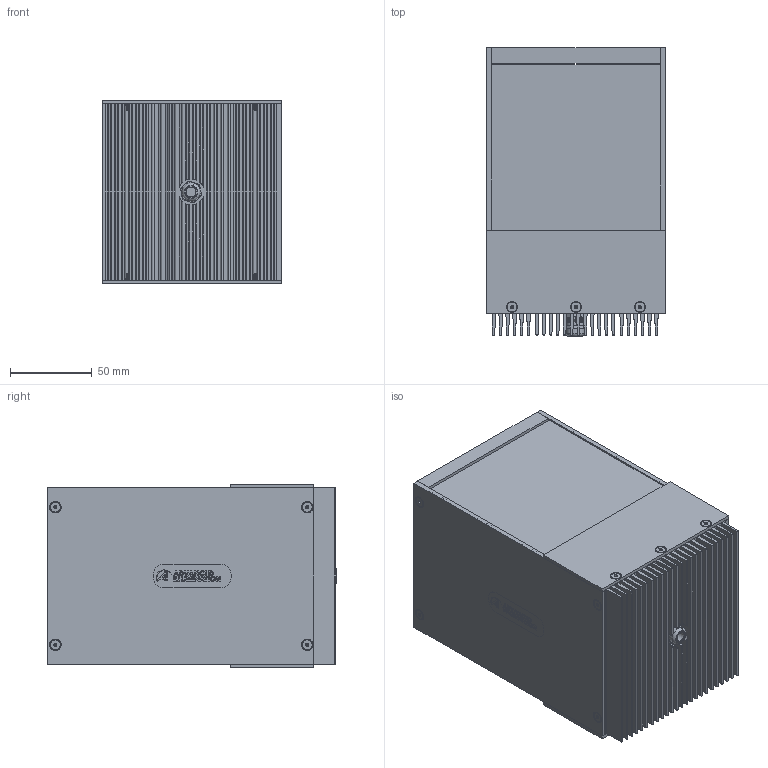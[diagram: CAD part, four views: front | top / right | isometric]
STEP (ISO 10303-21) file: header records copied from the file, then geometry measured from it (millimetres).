
FILE_DESCRIPTION (( 'STEP AP214' ), '1' );
FILE_NAME ('DL225-100_Default.stp', '2021-05-03T19:31:03', ( '' ), ( '' ), 'SwSTEP 2.0', 'SolidWorks 2018', '' );
FILE_SCHEMA (( 'AUTOMOTIVE_DESIGN' ));
Length unit declared in the file: inch
Products named in the file (20): 096461_Default<As Machined>; 106-03-009_Default<As Machined>; 106-01-004_Default<As Machined>; 096459_Default<As Machined>; DL225-100_Default; 106-03-006_Default<As Machined>; 096466; 106-03-007; PHTHF-256x.1875; 096465; 5413-54; 096460_Default<As Machined>; CD10MW-BR_Model_Dome Fittings_Thread Type and Size(Dome)_M10 x 1.5_Hazardous Location-Explosive Proof(ATEX and EExe Versions)_No_; 091053; 106-03-005_Default<As Machined>; 096464; 096462; FH-440X.25; 090154-04
Assembly tree (46 placements, depth 3):
  DL225-100_Default
    096459_Default<As Machined>
    096460_Default<As Machined>
    096461_Default<As Machined>  x2
    096462  x2
    106-03-009_Default<As Machined>  x4
    106-01-004_Default<As Machined>
    106-03-007
    106-03-006_Default<As Machined>
    106-03-005_Default<As Machined>
    090154-04  x6
    FH-440X.25  x14
    091053  x2
      091053
    CD10MW-BR_Model_Dome Fittings_Thread Type and Size(Dome)_M10 x 1.5_Hazardous Location-Explosive Proof(ATEX and EExe Versions)_No_
    096464  x2
    096465  x2
    096466  x2
    5413-54
    PHTHF-256x.1875
Bounding box: 110.08 x 177.2 x 112.65 mm (x, y, z)
Volume: 548818.3 mm3; surface area: 434815.3 mm2
Topology: 46 solids, 46 shells, 2374 faces, 5950 edges, 3762 vertices
Faces by surface type: plane 1088, cylinder 747, cone 371, bspline 144, torus 24
Entity records: 72487 total; most frequent: CARTESIAN_POINT 38798, ORIENTED_EDGE 6668, DIRECTION 5598, EDGE_CURVE 3334, VERTEX_POINT 2154, AXIS2_PLACEMENT_3D 1881, VECTOR 1836, LINE 1836
